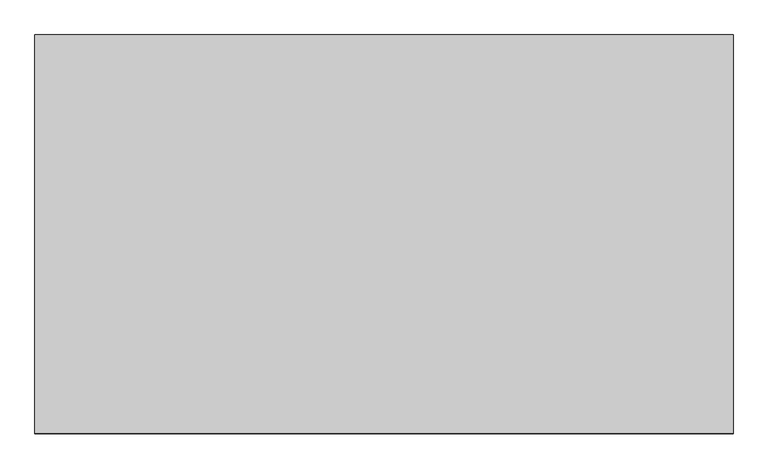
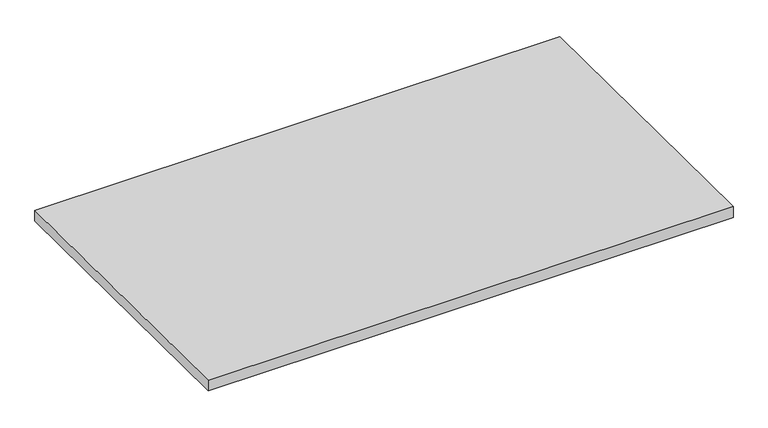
"""IFC4 building model written with IfcOpenShell, lengths in millimetres: proxy geometry, lastra tralicciata_inclinata_senza alleggerimenti : lastra tralicciata_inclinata_due_rompitratta."""

from ifc_helpers import new_model, si_unit, frame, origin, place, context, project, spatial, polyline, outline, extrude, source, transform, mapped, element, save


def generic_models_f24f269b(model_context):
    return source(origin(), model_context, "Body", "SweptSolid", [
        extrude(outline(polyline([(0.0, -1080.0), (0.0, 0.0), (1890.0, 0.0), (1890.0, -1080.0), (0.0, -1080.0)])), frame((0.0, 539.9868406, -3.7698806), z_axis=(0.0, 0.006981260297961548, 0.9999756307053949), x_axis=(1.0, 0.0, 0.0)), (0.0, 0.0, 1.0), 40.0),
    ])


if __name__ == "__main__":
    model = new_model("IFC4")
    model_context = context("Model", 3, world=origin())
    ifc_project = project(units=[si_unit("LENGTHUNIT", "METRE", prefix="MILLI")], contexts=[model_context])
    site = spatial("IfcSite", under=ifc_project)
    building = spatial("IfcBuilding", under=site)
    placement = place(None, origin())
    generic_models_shape = generic_models_f24f269b(model_context)
    element("IfcBuildingElementProxy", 1, Name="lastra tralicciata_inclinata_senza alleggerimenti : lastra tralicciata_inclinata_due_rompitratta", ObjectType="lastra tralicciata_inclinata_senza alleggerimenti : lastra tralicciata_inclinata_due_rompitratta", at=placement, inside=building, context=model_context, shape_type="MappedRepresentation", body=[
        mapped(generic_models_shape, transform((0.0, 0.0, 0.0), x_axis=(1.0, 0.0, 0.0), y_axis=(0.0, 1.0, 0.0), z_axis=(0.0, 0.0, 1.0))),
    ])
    save(model, "model.ifc")
